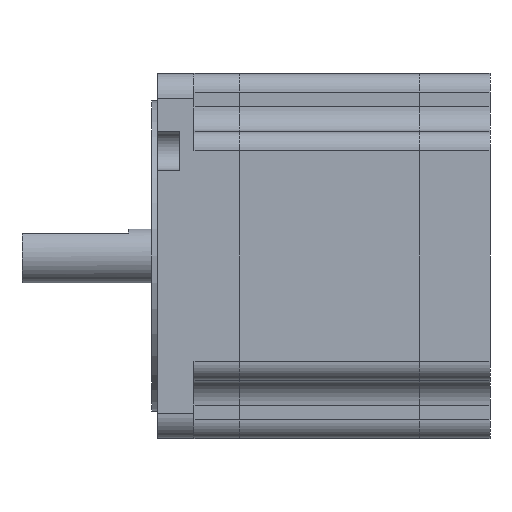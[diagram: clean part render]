
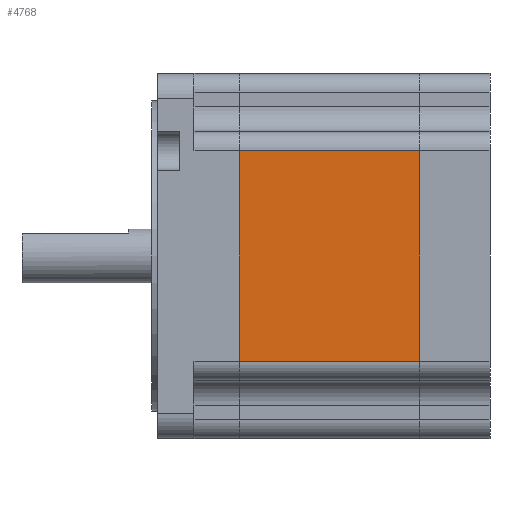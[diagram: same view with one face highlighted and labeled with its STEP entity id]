
A CAD part, left-side view. The second image highlights one B-rep face of the part: STEP entity #4768.
In plain terms, the highlighted planar face has unit normal (-1, 0, 0).
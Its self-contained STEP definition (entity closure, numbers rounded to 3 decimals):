
#66 = LINE ( 'NONE', #2670, #4081 ) ;
#122 = DIRECTION ( 'NONE',  ( 0., -1., 0. ) ) ;
#474 = ORIENTED_EDGE ( 'NONE', *, *, #3854, .T. ) ;
#601 = DIRECTION ( 'NONE',  ( 0., 0., 1. ) ) ;
#751 = VECTOR ( 'NONE', #3468, 1000. ) ;
#880 = EDGE_CURVE ( 'NONE', #4695, #944, #66, .T. ) ;
#944 = VERTEX_POINT ( 'NONE', #3093 ) ;
#1388 = CARTESIAN_POINT ( 'NONE',  ( 0., 42.5, -67.8 ) ) ;
#1449 = DIRECTION ( 'NONE',  ( 1., 0., 0. ) ) ;
#1560 = EDGE_CURVE ( 'NONE', #4925, #1893, #3866, .T. ) ;
#1594 = CARTESIAN_POINT ( 'NONE',  ( 0., 0., -18.2 ) ) ;
#1893 = VERTEX_POINT ( 'NONE', #1594 ) ;
#1916 = CARTESIAN_POINT ( 'NONE',  ( 0., 42.5, -67.8 ) ) ;
#1947 = LINE ( 'NONE', #1916, #751 ) ;
#2071 = LINE ( 'NONE', #4002, #2994 ) ;
#2152 = CARTESIAN_POINT ( 'NONE',  ( 0., 0., -67.8 ) ) ;
#2216 = CARTESIAN_POINT ( 'NONE',  ( 0., 42.5, -67.8 ) ) ;
#2670 = CARTESIAN_POINT ( 'NONE',  ( 0., 42.5, -67.8 ) ) ;
#2718 = ORIENTED_EDGE ( 'NONE', *, *, #4531, .F. ) ;
#2994 = VECTOR ( 'NONE', #122, 1000. ) ;
#3002 = PLANE ( 'NONE',  #3200 ) ;
#3093 = CARTESIAN_POINT ( 'NONE',  ( 0., 42.5, -18.2 ) ) ;
#3200 = AXIS2_PLACEMENT_3D ( 'NONE', #2216, #1449, #4160 ) ;
#3437 = DIRECTION ( 'NONE',  ( 0., 0., 1. ) ) ;
#3468 = DIRECTION ( 'NONE',  ( 0., -1., 0. ) ) ;
#3653 = EDGE_LOOP ( 'NONE', ( #3914, #2718, #4694, #474 ) ) ;
#3854 = EDGE_CURVE ( 'NONE', #4695, #4925, #1947, .T. ) ;
#3866 = LINE ( 'NONE', #2152, #4773 ) ;
#3884 = CARTESIAN_POINT ( 'NONE',  ( 0., 0., -67.8 ) ) ;
#3914 = ORIENTED_EDGE ( 'NONE', *, *, #1560, .T. ) ;
#4002 = CARTESIAN_POINT ( 'NONE',  ( 0., 42.5, -18.2 ) ) ;
#4070 = FACE_OUTER_BOUND ( 'NONE', #3653, .T. ) ;
#4081 = VECTOR ( 'NONE', #3437, 1000. ) ;
#4160 = DIRECTION ( 'NONE',  ( 0., 0., -1. ) ) ;
#4531 = EDGE_CURVE ( 'NONE', #944, #1893, #2071, .T. ) ;
#4694 = ORIENTED_EDGE ( 'NONE', *, *, #880, .F. ) ;
#4695 = VERTEX_POINT ( 'NONE', #1388 ) ;
#4768 = ADVANCED_FACE ( 'NONE', ( #4070 ), #3002, .F. ) ;
#4773 = VECTOR ( 'NONE', #601, 1000. ) ;
#4925 = VERTEX_POINT ( 'NONE', #3884 ) ;
